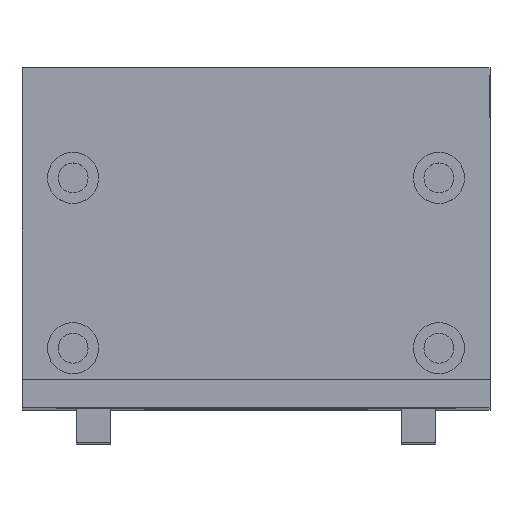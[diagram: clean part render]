
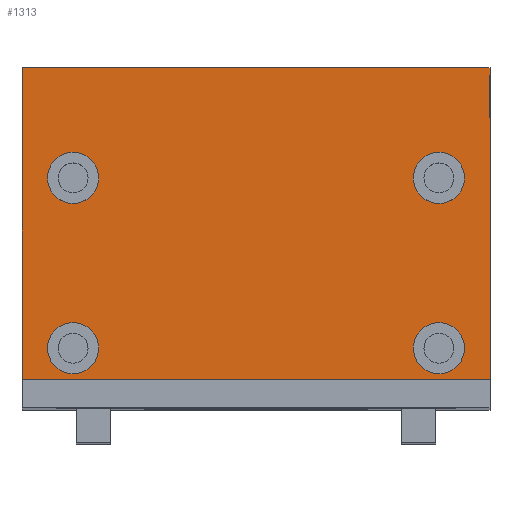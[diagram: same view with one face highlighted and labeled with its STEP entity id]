
A CAD part, top view. The second image highlights one B-rep face of the part: STEP entity #1313.
In plain terms, the highlighted planar face has unit normal (0, 0, 1).
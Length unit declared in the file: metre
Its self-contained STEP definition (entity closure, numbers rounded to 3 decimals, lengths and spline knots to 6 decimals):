
#102=LINE('',#2049,#192);
#109=LINE('',#2066,#199);
#131=LINE('',#2158,#221);
#132=LINE('',#2168,#222);
#192=VECTOR('',#1637,1.);
#199=VECTOR('',#1652,1.);
#221=VECTOR('',#1770,1.);
#222=VECTOR('',#1781,1.);
#464=ORIENTED_EDGE('',*,*,#660,.F.);
#465=ORIENTED_EDGE('',*,*,#661,.F.);
#466=ORIENTED_EDGE('',*,*,#662,.F.);
#467=ORIENTED_EDGE('',*,*,#663,.F.);
#468=ORIENTED_EDGE('',*,*,#616,.T.);
#469=ORIENTED_EDGE('',*,*,#664,.T.);
#470=ORIENTED_EDGE('',*,*,#625,.F.);
#471=ORIENTED_EDGE('',*,*,#659,.T.);
#616=EDGE_CURVE('',#758,#757,#102,.T.);
#625=EDGE_CURVE('',#763,#764,#109,.T.);
#659=EDGE_CURVE('',#763,#758,#131,.T.);
#660=EDGE_CURVE('',#786,#786,#850,.T.);
#661=EDGE_CURVE('',#787,#787,#851,.T.);
#662=EDGE_CURVE('',#788,#788,#852,.T.);
#663=EDGE_CURVE('',#789,#789,#853,.T.);
#664=EDGE_CURVE('',#757,#764,#132,.T.);
#757=VERTEX_POINT('',#2048);
#758=VERTEX_POINT('',#2050);
#763=VERTEX_POINT('',#2065);
#764=VERTEX_POINT('',#2067);
#786=VERTEX_POINT('',#2161);
#787=VERTEX_POINT('',#2163);
#788=VERTEX_POINT('',#2165);
#789=VERTEX_POINT('',#2167);
#850=CIRCLE('',#1447,0.003);
#851=CIRCLE('',#1448,0.003);
#852=CIRCLE('',#1449,0.003);
#853=CIRCLE('',#1450,0.003);
#985=EDGE_LOOP('',(#464));
#986=EDGE_LOOP('',(#465));
#987=EDGE_LOOP('',(#466));
#988=EDGE_LOOP('',(#467));
#989=EDGE_LOOP('',(#468,#469,#470,#471));
#1155=FACE_BOUND('',#985,.T.);
#1156=FACE_BOUND('',#986,.T.);
#1157=FACE_BOUND('',#987,.T.);
#1158=FACE_BOUND('',#988,.T.);
#1159=FACE_BOUND('',#989,.T.);
#1249=PLANE('',#1446);
#1313=ADVANCED_FACE('',(#1155,#1156,#1157,#1158,#1159),#1249,.T.);
#1446=AXIS2_PLACEMENT_3D('',#2159,#1771,#1772);
#1447=AXIS2_PLACEMENT_3D('',#2160,#1773,#1774);
#1448=AXIS2_PLACEMENT_3D('',#2162,#1775,#1776);
#1449=AXIS2_PLACEMENT_3D('',#2164,#1777,#1778);
#1450=AXIS2_PLACEMENT_3D('',#2166,#1779,#1780);
#1637=DIRECTION('',(0.,-1.,0.));
#1652=DIRECTION('',(0.,-1.,0.));
#1770=DIRECTION('',(-1.,0.,0.));
#1771=DIRECTION('',(0.,0.,1.));
#1772=DIRECTION('',(1.,0.,0.));
#1773=DIRECTION('',(0.,0.,1.));
#1774=DIRECTION('',(1.,0.,0.));
#1775=DIRECTION('',(0.,0.,1.));
#1776=DIRECTION('',(1.,0.,0.));
#1777=DIRECTION('',(0.,0.,1.));
#1778=DIRECTION('',(1.,0.,0.));
#1779=DIRECTION('',(0.,0.,1.));
#1780=DIRECTION('',(1.,0.,0.));
#1781=DIRECTION('',(1.,0.,0.));
#2048=CARTESIAN_POINT('',(-0.021408,-0.01159,0.185201));
#2049=CARTESIAN_POINT('',(-0.021408,0.004,0.185201));
#2050=CARTESIAN_POINT('',(-0.021408,0.025,0.185201));
#2065=CARTESIAN_POINT('',(0.033532,0.025,0.185201));
#2066=CARTESIAN_POINT('',(0.033532,0.004,0.185201));
#2067=CARTESIAN_POINT('',(0.033532,-0.01159,0.185201));
#2158=CARTESIAN_POINT('',(0.006062,0.025,0.185201));
#2159=CARTESIAN_POINT('',(0.006062,0.004,0.185201));
#2160=CARTESIAN_POINT('',(-0.015408,-0.00794,0.185201));
#2161=CARTESIAN_POINT('',(-0.012408,-0.00794,0.185201));
#2162=CARTESIAN_POINT('',(0.027532,0.01206,0.185201));
#2163=CARTESIAN_POINT('',(0.030532,0.01206,0.185201));
#2164=CARTESIAN_POINT('',(0.027532,-0.00794,0.185201));
#2165=CARTESIAN_POINT('',(0.030532,-0.00794,0.185201));
#2166=CARTESIAN_POINT('',(-0.015408,0.01206,0.185201));
#2167=CARTESIAN_POINT('',(-0.012408,0.01206,0.185201));
#2168=CARTESIAN_POINT('',(0.006062,-0.01159,0.185201));
